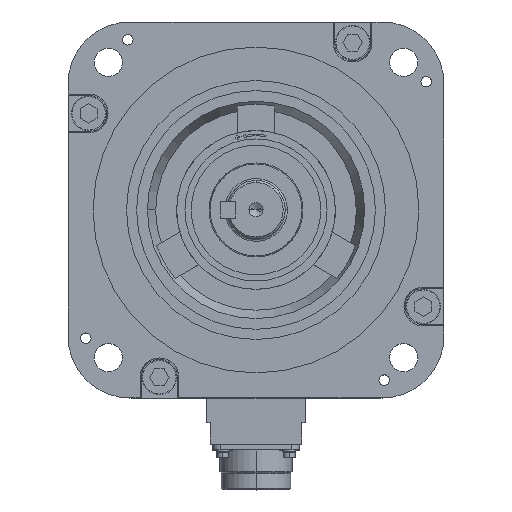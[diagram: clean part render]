
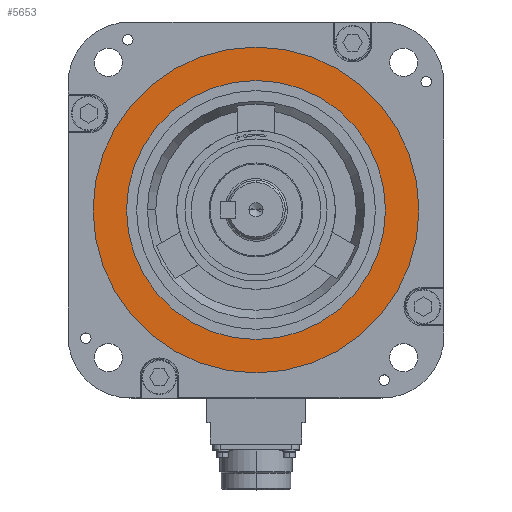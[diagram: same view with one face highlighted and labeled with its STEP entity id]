
A CAD part, top view. The second image highlights one B-rep face of the part: STEP entity #5653.
In plain terms, the highlighted planar face has unit normal (0, 0, 1).
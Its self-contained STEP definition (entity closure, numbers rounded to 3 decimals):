
#2307 = DIRECTION ( 'NONE',  ( 0., 0., -1. ) ) ;
#3617 = DIRECTION ( 'NONE',  ( 0., 0., -1. ) ) ;
#4590 = EDGE_CURVE ( 'NONE', #50670, #38878, #48147, .T. ) ;
#5008 = AXIS2_PLACEMENT_3D ( 'NONE', #51348, #43354, #11097 ) ;
#5609 = EDGE_CURVE ( 'NONE', #38878, #50670, #22935, .T. ) ;
#5653 = ADVANCED_FACE ( 'NONE', ( #52073, #28210 ), #11523, .T. ) ;
#6639 = CARTESIAN_POINT ( 'NONE',  ( 78., 0., -0.5 ) ) ;
#6878 = AXIS2_PLACEMENT_3D ( 'NONE', #35628, #3617, #35364 ) ;
#8583 = AXIS2_PLACEMENT_3D ( 'NONE', #37190, #36937, #16349 ) ;
#9114 = VERTEX_POINT ( 'NONE', #6639 ) ;
#9341 = ORIENTED_EDGE ( 'NONE', *, *, #34830, .T. ) ;
#10981 = EDGE_LOOP ( 'NONE', ( #38904, #9341 ) ) ;
#11097 = DIRECTION ( 'NONE',  ( 1., 0., 0. ) ) ;
#11523 = PLANE ( 'NONE',  #8583 ) ;
#16349 = DIRECTION ( 'NONE',  ( 1., 0., 0. ) ) ;
#22935 = CIRCLE ( 'NONE', #6878, 62. ) ;
#23485 = CARTESIAN_POINT ( 'NONE',  ( 0., 0., -0.5 ) ) ;
#24625 = CIRCLE ( 'NONE', #28857, 78. ) ;
#26087 = CIRCLE ( 'NONE', #5008, 78. ) ;
#28132 = CARTESIAN_POINT ( 'NONE',  ( -62., 0., -0.5 ) ) ;
#28210 = FACE_OUTER_BOUND ( 'NONE', #10981, .T. ) ;
#28272 = EDGE_CURVE ( 'NONE', #9114, #46397, #26087, .T. ) ;
#28625 = CARTESIAN_POINT ( 'NONE',  ( -78., 0., -0.5 ) ) ;
#28857 = AXIS2_PLACEMENT_3D ( 'NONE', #23485, #39586, #43045 ) ;
#31312 = EDGE_LOOP ( 'NONE', ( #46846, #46251 ) ) ;
#34830 = EDGE_CURVE ( 'NONE', #46397, #9114, #24625, .T. ) ;
#35364 = DIRECTION ( 'NONE',  ( -1., 0., 0. ) ) ;
#35628 = CARTESIAN_POINT ( 'NONE',  ( 0., 0., -0.5 ) ) ;
#36937 = DIRECTION ( 'NONE',  ( 0., 0., 1. ) ) ;
#37190 = CARTESIAN_POINT ( 'NONE',  ( 0., 0., -0.5 ) ) ;
#38878 = VERTEX_POINT ( 'NONE', #45441 ) ;
#38904 = ORIENTED_EDGE ( 'NONE', *, *, #28272, .T. ) ;
#39586 = DIRECTION ( 'NONE',  ( 0., 0., 1. ) ) ;
#42742 = CARTESIAN_POINT ( 'NONE',  ( 0., 0., -0.5 ) ) ;
#43045 = DIRECTION ( 'NONE',  ( 1., 0., 0. ) ) ;
#43354 = DIRECTION ( 'NONE',  ( 0., 0., 1. ) ) ;
#45441 = CARTESIAN_POINT ( 'NONE',  ( 62., 0., -0.5 ) ) ;
#45698 = DIRECTION ( 'NONE',  ( -1., 0., 0. ) ) ;
#46251 = ORIENTED_EDGE ( 'NONE', *, *, #5609, .T. ) ;
#46397 = VERTEX_POINT ( 'NONE', #28625 ) ;
#46846 = ORIENTED_EDGE ( 'NONE', *, *, #4590, .T. ) ;
#47254 = AXIS2_PLACEMENT_3D ( 'NONE', #42742, #2307, #45698 ) ;
#48147 = CIRCLE ( 'NONE', #47254, 62. ) ;
#50670 = VERTEX_POINT ( 'NONE', #28132 ) ;
#51348 = CARTESIAN_POINT ( 'NONE',  ( 0., 0., -0.5 ) ) ;
#52073 = FACE_BOUND ( 'NONE', #31312, .T. ) ;
